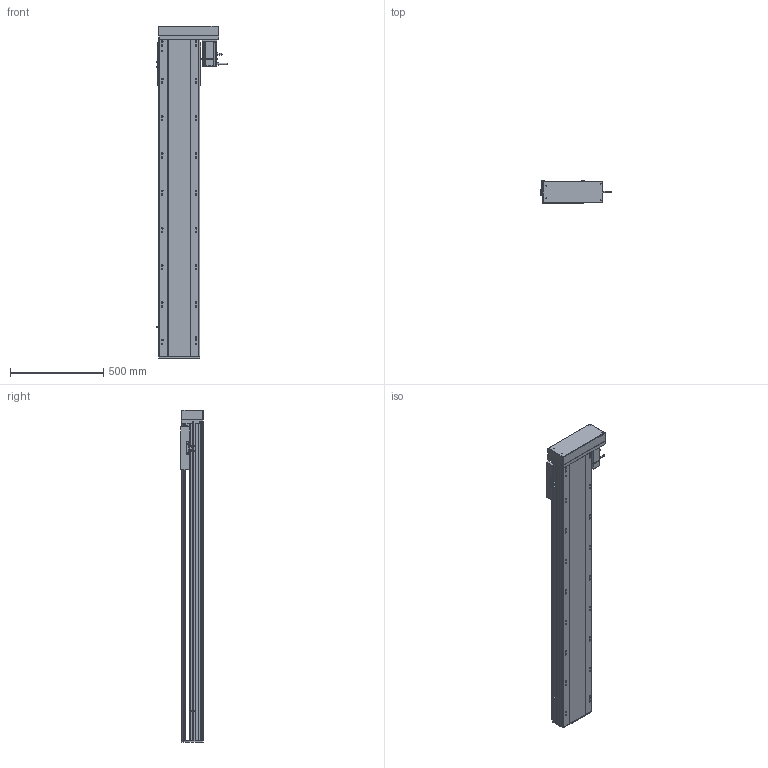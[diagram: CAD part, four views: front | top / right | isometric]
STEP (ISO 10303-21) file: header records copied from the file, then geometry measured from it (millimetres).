
FILE_DESCRIPTION (( 'STEP AP214' ), '1' );
FILE_NAME ('RTH22-XX-1400-L-M75-C4.STEP', '2025-10-24T11:03:05', ( 'Microsoft' ), ( 'Microsoft' ), 'SwSTEP 2.0', 'SolidWorks 2018', '' );
FILE_SCHEMA (( 'AUTOMOTIVE_DESIGN' ));
Length unit declared in the file: millimetre
Products named in the file (10): N_OMRON EE-SX672 传感器^RTH22-XX-XX-L-M75-C4; N_RTH22-GY-013外置感应片^RTH22-XX-XX-L-M75-C4; N_RTH22-L-018裔赽^RTH22-XX-XX-L-M75-C4; N_RTH22-L-008-P75萇儂啣^RTH22-XX-XX-L-M75-C4; N_750W萇儂^RTH22-XX-XX-L-M75-C4; N_RTH22-L-011菁釱^RTH22-XX-XX-L-M75-C4; RTH22-XX-1400-L-M75-C4; N_RTH22-GY-001耜裔^RTH22-XX-XX-L-M75-C4; N_RTH22-L-004-SFS25賑釱^RTH22-XX-XX-L-M75-C4; N_RTH22-L-007奻裔^RTH22-XX-XX-L-M75-C4
Assembly tree (11 placements, depth 2):
  RTH22-XX-1400-L-M75-C4
    N_RTH22-L-011菁釱^RTH22-XX-XX-L-M75-C4
    N_RTH22-GY-001耜裔^RTH22-XX-XX-L-M75-C4
    N_750W萇儂^RTH22-XX-XX-L-M75-C4
    N_RTH22-L-008-P75萇儂啣^RTH22-XX-XX-L-M75-C4
    N_RTH22-L-007奻裔^RTH22-XX-XX-L-M75-C4
    N_RTH22-L-018裔赽^RTH22-XX-XX-L-M75-C4
    N_OMRON EE-SX672 传感器^RTH22-XX-XX-L-M75-C4  x3
    N_RTH22-GY-013外置感应片^RTH22-XX-XX-L-M75-C4
    N_RTH22-L-004-SFS25賑釱^RTH22-XX-XX-L-M75-C4
Bounding box: 384.7 x 122 x 1779.7 mm (x, y, z)
Volume: 23574590.8 mm3; surface area: 2576209.3 mm2
Topology: 11 solids, 11 shells, 1642 faces, 4479 edges, 2881 vertices
Faces by surface type: plane 799, cylinder 494, bspline 279, cone 70
Entity records: 41651 total; most frequent: CARTESIAN_POINT 12558, ORIENTED_EDGE 5910, DIRECTION 5625, EDGE_CURVE 2955, VERTEX_POINT 1917, AXIS2_PLACEMENT_3D 1912, LINE 1801, VECTOR 1801
